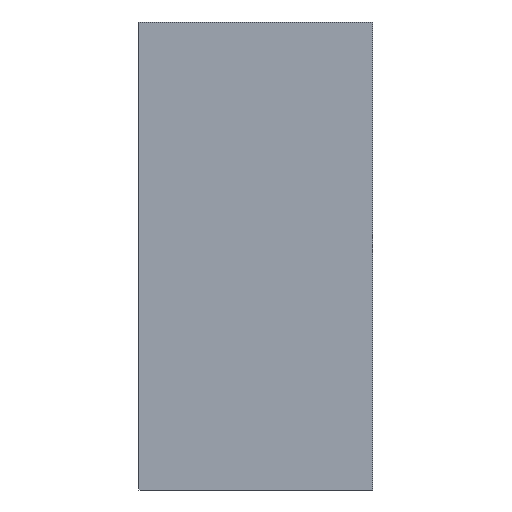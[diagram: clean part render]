
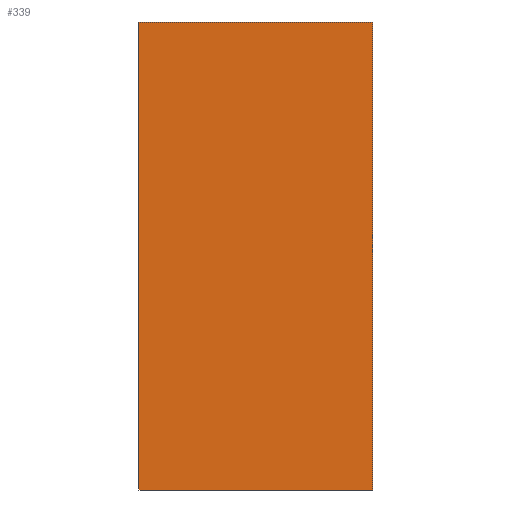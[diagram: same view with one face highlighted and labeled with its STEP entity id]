
A CAD part, front view. The second image highlights one B-rep face of the part: STEP entity #339.
In plain terms, the highlighted planar face has unit normal (0, -1, 0).
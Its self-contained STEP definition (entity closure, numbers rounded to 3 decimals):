
#15 = EDGE_CURVE ( 'NONE', #666, #286, #640, .T. ) ;
#22 = VERTEX_POINT ( 'NONE', #493 ) ;
#64 = EDGE_CURVE ( 'NONE', #623, #666, #939, .T. ) ;
#93 = VECTOR ( 'NONE', #127, 1000. ) ;
#97 = EDGE_CURVE ( 'NONE', #22, #623, #915, .T. ) ;
#107 = FACE_OUTER_BOUND ( 'NONE', #945, .T. ) ;
#116 = CARTESIAN_POINT ( 'NONE',  ( -290., 0., 580. ) ) ;
#127 = DIRECTION ( 'NONE',  ( 1., 0., 0. ) ) ;
#169 = DIRECTION ( 'NONE',  ( 0., 0., -1. ) ) ;
#172 = ORIENTED_EDGE ( 'NONE', *, *, #761, .F. ) ;
#177 = ORIENTED_EDGE ( 'NONE', *, *, #64, .F. ) ;
#197 = AXIS2_PLACEMENT_3D ( 'NONE', #387, #766, #169 ) ;
#213 = CARTESIAN_POINT ( 'NONE',  ( 290., 0., 580. ) ) ;
#238 = VECTOR ( 'NONE', #667, 1000. ) ;
#286 = VERTEX_POINT ( 'NONE', #677 ) ;
#309 = PLANE ( 'NONE',  #197 ) ;
#339 = ADVANCED_FACE ( 'NONE', ( #107 ), #309, .T. ) ;
#387 = CARTESIAN_POINT ( 'NONE',  ( 0., 0., 0. ) ) ;
#443 = VECTOR ( 'NONE', #948, 1000. ) ;
#445 = CARTESIAN_POINT ( 'NONE',  ( -290., 0., -580. ) ) ;
#493 = CARTESIAN_POINT ( 'NONE',  ( -290., 0., -580. ) ) ;
#500 = CARTESIAN_POINT ( 'NONE',  ( 290., 0., 580. ) ) ;
#575 = CARTESIAN_POINT ( 'NONE',  ( -290., 0., 580. ) ) ;
#598 = VECTOR ( 'NONE', #812, 1000. ) ;
#623 = VERTEX_POINT ( 'NONE', #802 ) ;
#640 = LINE ( 'NONE', #500, #443 ) ;
#666 = VERTEX_POINT ( 'NONE', #213 ) ;
#667 = DIRECTION ( 'NONE',  ( -1., 0., 0. ) ) ;
#677 = CARTESIAN_POINT ( 'NONE',  ( 290., 0., -580. ) ) ;
#698 = ORIENTED_EDGE ( 'NONE', *, *, #15, .F. ) ;
#761 = EDGE_CURVE ( 'NONE', #286, #22, #789, .T. ) ;
#766 = DIRECTION ( 'NONE',  ( 0., -1., 0. ) ) ;
#789 = LINE ( 'NONE', #445, #238 ) ;
#802 = CARTESIAN_POINT ( 'NONE',  ( -290., 0., 580. ) ) ;
#809 = ORIENTED_EDGE ( 'NONE', *, *, #97, .F. ) ;
#812 = DIRECTION ( 'NONE',  ( 0., 0., 1. ) ) ;
#915 = LINE ( 'NONE', #116, #598 ) ;
#939 = LINE ( 'NONE', #575, #93 ) ;
#945 = EDGE_LOOP ( 'NONE', ( #698, #177, #809, #172 ) ) ;
#948 = DIRECTION ( 'NONE',  ( 0., 0., -1. ) ) ;
